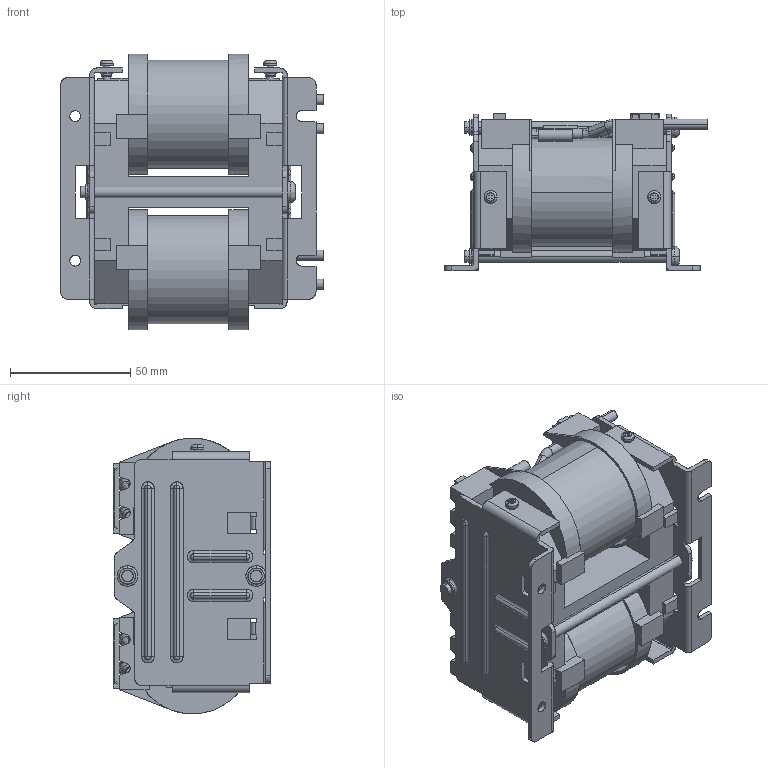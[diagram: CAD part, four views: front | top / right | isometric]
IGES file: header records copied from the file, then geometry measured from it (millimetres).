
Start section: SolidWorks IGES file using analytic representation for surfaces
Bounding box: 109 x 65.4 x 114.5 mm (x, y, z)
Surface area: 112731.4 mm2 (no closed solid volume)
Topology: 0 solids, 0 shells, 943 faces, 10917 edges, 10888 vertices
Faces by surface type: bspline 579, revolution 364
